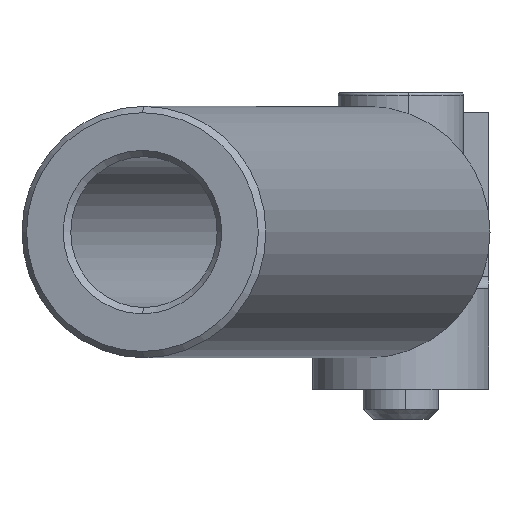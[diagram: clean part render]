
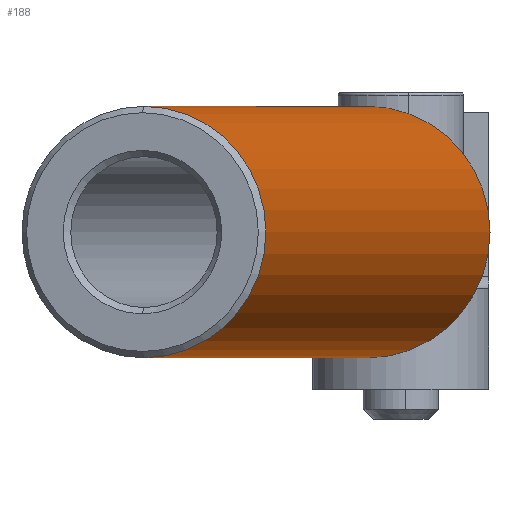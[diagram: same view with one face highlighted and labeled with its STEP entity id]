
A CAD part, front view. The second image highlights one B-rep face of the part: STEP entity #188.
In plain terms, the highlighted cylindrical face has radius 10 mm (diameter 20 mm), a partial arc.
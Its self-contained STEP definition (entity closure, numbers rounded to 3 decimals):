
#90 = CARTESIAN_POINT ( 'NONE',  ( -11.846, 6.544, 34.971 ) ) ;
#188 = ADVANCED_FACE ( 'NONE', ( #8656 ), #5176, .T. ) ;
#1153 = ORIENTED_EDGE ( 'NONE', *, *, #8960, .F. ) ;
#1249 = CARTESIAN_POINT ( 'NONE',  ( -21.549, 8.963, 44.971 ) ) ;
#1383 = VERTEX_POINT ( 'NONE', #4100 ) ;
#1437 = DIRECTION ( 'NONE',  ( 0., 0., -1. ) ) ;
#1475 = DIRECTION ( 'NONE',  ( -0.242, -0.97, 0. ) ) ;
#1544 = CARTESIAN_POINT ( 'NONE',  ( -39.376, -62.549, 34.971 ) ) ;
#1809 = ORIENTED_EDGE ( 'NONE', *, *, #3256, .F. ) ;
#2378 = VERTEX_POINT ( 'NONE', #3676 ) ;
#2494 = VECTOR ( 'NONE', #2831, 1000. ) ;
#2559 = AXIS2_PLACEMENT_3D ( 'NONE', #4232, #9890, #5040 ) ;
#2648 = ORIENTED_EDGE ( 'NONE', *, *, #8350, .T. ) ;
#2764 = VERTEX_POINT ( 'NONE', #7961 ) ;
#2831 = DIRECTION ( 'NONE',  ( -0.242, -0.97, 0. ) ) ;
#2906 = CIRCLE ( 'NONE', #7021, 10. ) ;
#3037 = CARTESIAN_POINT ( 'NONE',  ( -21.549, 8.963, 34.971 ) ) ;
#3256 = EDGE_CURVE ( 'NONE', #8829, #1383, #7419, .T. ) ;
#3274 = CARTESIAN_POINT ( 'NONE',  ( -21.549, 8.963, 24.971 ) ) ;
#3676 = CARTESIAN_POINT ( 'NONE',  ( -21.549, 8.963, 44.971 ) ) ;
#3850 = DIRECTION ( 'NONE',  ( 0., 0., -1. ) ) ;
#4100 = CARTESIAN_POINT ( 'NONE',  ( -39.376, -62.549, 44.971 ) ) ;
#4232 = CARTESIAN_POINT ( 'NONE',  ( -21.549, 8.963, 34.971 ) ) ;
#4616 = VERTEX_POINT ( 'NONE', #90 ) ;
#4645 = VECTOR ( 'NONE', #9719, 1000. ) ;
#5040 = DIRECTION ( 'NONE',  ( 0., 0., -1. ) ) ;
#5083 = AXIS2_PLACEMENT_3D ( 'NONE', #1544, #1475, #1437 ) ;
#5163 = ORIENTED_EDGE ( 'NONE', *, *, #9369, .T. ) ;
#5176 = CYLINDRICAL_SURFACE ( 'NONE', #6680, 10. ) ;
#5493 = CARTESIAN_POINT ( 'NONE',  ( -39.376, -62.549, 24.971 ) ) ;
#6001 = EDGE_LOOP ( 'NONE', ( #5163, #2648, #9568, #1809, #1153 ) ) ;
#6534 = DIRECTION ( 'NONE',  ( 0., 0., -1. ) ) ;
#6680 = AXIS2_PLACEMENT_3D ( 'NONE', #9989, #10225, #6534 ) ;
#6768 = LINE ( 'NONE', #3274, #4645 ) ;
#7021 = AXIS2_PLACEMENT_3D ( 'NONE', #3037, #8647, #3850 ) ;
#7341 = EDGE_CURVE ( 'NONE', #2378, #1383, #8600, .T. ) ;
#7419 = CIRCLE ( 'NONE', #5083, 10. ) ;
#7961 = CARTESIAN_POINT ( 'NONE',  ( -21.549, 8.963, 24.971 ) ) ;
#8350 = EDGE_CURVE ( 'NONE', #4616, #2378, #9205, .T. ) ;
#8600 = LINE ( 'NONE', #1249, #2494 ) ;
#8647 = DIRECTION ( 'NONE',  ( -0.242, -0.97, 0. ) ) ;
#8656 = FACE_OUTER_BOUND ( 'NONE', #6001, .T. ) ;
#8829 = VERTEX_POINT ( 'NONE', #5493 ) ;
#8960 = EDGE_CURVE ( 'NONE', #2764, #8829, #6768, .T. ) ;
#9205 = CIRCLE ( 'NONE', #2559, 10. ) ;
#9369 = EDGE_CURVE ( 'NONE', #2764, #4616, #2906, .T. ) ;
#9568 = ORIENTED_EDGE ( 'NONE', *, *, #7341, .T. ) ;
#9719 = DIRECTION ( 'NONE',  ( -0.242, -0.97, 0. ) ) ;
#9890 = DIRECTION ( 'NONE',  ( -0.242, -0.97, 0. ) ) ;
#9989 = CARTESIAN_POINT ( 'NONE',  ( -21.549, 8.963, 34.971 ) ) ;
#10225 = DIRECTION ( 'NONE',  ( -0.242, -0.97, 0. ) ) ;
